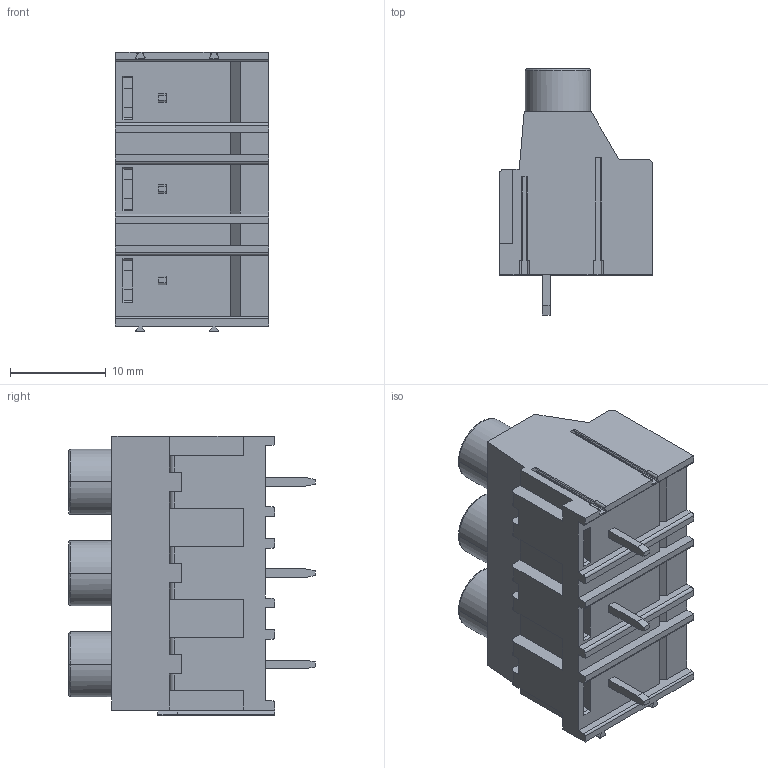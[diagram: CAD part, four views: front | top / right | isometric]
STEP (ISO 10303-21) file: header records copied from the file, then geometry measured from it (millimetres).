
FILE_DESCRIPTION((''),'2;1');
FILE_NAME('3PIN_SW0001','2019-05-28T',('zhenbing.lai'),(''),'CREO PARAMETRIC BY PTC INC, 2016260','CREO PARAMETRIC BY PTC INC, 2016260','');
FILE_SCHEMA(('CONFIG_CONTROL_DESIGN'));
Length unit declared in the file: millimetre
Products named in the file (1): 3PIN_SW0001
Bounding box: 16 x 25.7 x 29.16 mm (x, y, z)
Volume: 5460 mm3; surface area: 3879.1 mm2
Topology: 1 solids, 1 shells, 374 faces, 1154 edges, 785 vertices
Faces by surface type: plane 242, cylinder 93, cone 21, torus 18
Entity records: 13423 total; most frequent: CARTESIAN_POINT 3072, ORIENTED_EDGE 2308, DIRECTION 1997, EDGE_CURVE 1154, VERTEX_POINT 785, VECTOR 741, LINE 741, AXIS2_PLACEMENT_3D 628
